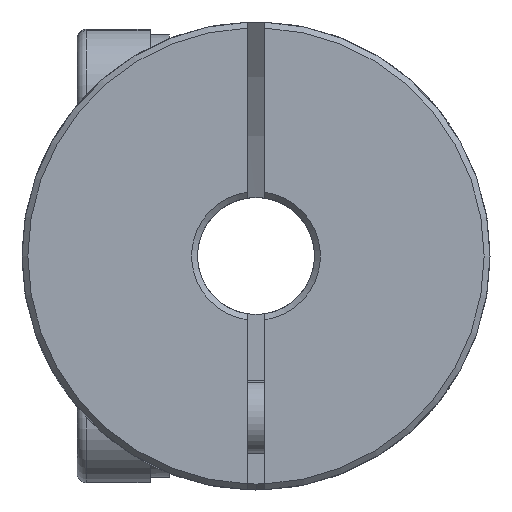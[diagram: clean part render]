
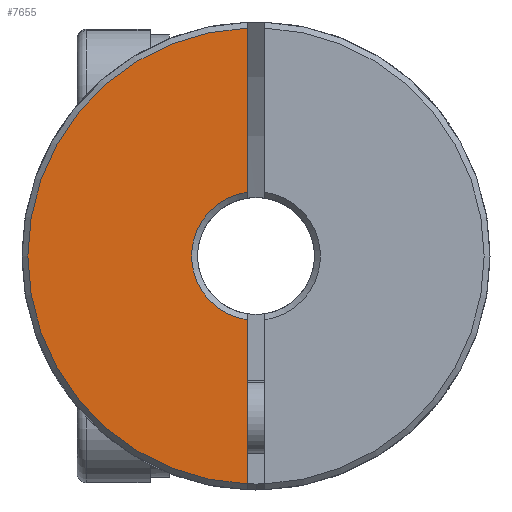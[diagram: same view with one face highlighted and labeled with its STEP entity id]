
A CAD part, front view. The second image highlights one B-rep face of the part: STEP entity #7655.
In plain terms, the highlighted planar face has unit normal (0, -1, 0).
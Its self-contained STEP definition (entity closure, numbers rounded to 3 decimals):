
#163 = EDGE_CURVE ( 'NONE', #5126, #4188, #5838, .T. ) ;
#553 = AXIS2_PLACEMENT_3D ( 'NONE', #1286, #4145, #4802 ) ;
#689 = CARTESIAN_POINT ( 'NONE',  ( -0.3, -15.02, -2.179 ) ) ;
#831 = CARTESIAN_POINT ( 'NONE',  ( -0.3, -15.02, 0. ) ) ;
#843 = CARTESIAN_POINT ( 'NONE',  ( -0.3, -15.02, 0. ) ) ;
#1286 = CARTESIAN_POINT ( 'NONE',  ( 0., -15.02, 0. ) ) ;
#1780 = DIRECTION ( 'NONE',  ( 0., 0., 1. ) ) ;
#2508 = DIRECTION ( 'NONE',  ( 0., 0., -1. ) ) ;
#2522 = AXIS2_PLACEMENT_3D ( 'NONE', #3494, #2897, #1780 ) ;
#2570 = CARTESIAN_POINT ( 'NONE',  ( -0.3, -15.02, -7.794 ) ) ;
#2865 = VERTEX_POINT ( 'NONE', #6134 ) ;
#2897 = DIRECTION ( 'NONE',  ( 0., 1., 0. ) ) ;
#3340 = VERTEX_POINT ( 'NONE', #2570 ) ;
#3494 = CARTESIAN_POINT ( 'NONE',  ( 0., -15.02, 0. ) ) ;
#3838 = AXIS2_PLACEMENT_3D ( 'NONE', #5486, #5467, #4271 ) ;
#3927 = CIRCLE ( 'NONE', #553, 7.8 ) ;
#4073 = EDGE_CURVE ( 'NONE', #2865, #4188, #6359, .T. ) ;
#4145 = DIRECTION ( 'NONE',  ( 0., -1., 0. ) ) ;
#4188 = VERTEX_POINT ( 'NONE', #6290 ) ;
#4271 = DIRECTION ( 'NONE',  ( 0., 0., 1. ) ) ;
#4450 = ORIENTED_EDGE ( 'NONE', *, *, #5903, .T. ) ;
#4573 = VECTOR ( 'NONE', #6173, 1000. ) ;
#4787 = ORIENTED_EDGE ( 'NONE', *, *, #4073, .F. ) ;
#4802 = DIRECTION ( 'NONE',  ( 0., 0., 1. ) ) ;
#5001 = ORIENTED_EDGE ( 'NONE', *, *, #6409, .F. ) ;
#5126 = VERTEX_POINT ( 'NONE', #689 ) ;
#5280 = EDGE_LOOP ( 'NONE', ( #4787, #4450, #5001, #5846 ) ) ;
#5318 = PLANE ( 'NONE',  #2522 ) ;
#5467 = DIRECTION ( 'NONE',  ( 0., 1., 0. ) ) ;
#5486 = CARTESIAN_POINT ( 'NONE',  ( 0., -15.02, 0. ) ) ;
#5838 = CIRCLE ( 'NONE', #3838, 2.2 ) ;
#5846 = ORIENTED_EDGE ( 'NONE', *, *, #163, .T. ) ;
#5903 = EDGE_CURVE ( 'NONE', #2865, #3340, #3927, .T. ) ;
#6134 = CARTESIAN_POINT ( 'NONE',  ( -0.3, -15.02, 7.794 ) ) ;
#6169 = LINE ( 'NONE', #831, #4573 ) ;
#6173 = DIRECTION ( 'NONE',  ( 0., 0., -1. ) ) ;
#6290 = CARTESIAN_POINT ( 'NONE',  ( -0.3, -15.02, 2.179 ) ) ;
#6359 = LINE ( 'NONE', #843, #6817 ) ;
#6409 = EDGE_CURVE ( 'NONE', #5126, #3340, #6169, .T. ) ;
#6442 = FACE_OUTER_BOUND ( 'NONE', #5280, .T. ) ;
#6817 = VECTOR ( 'NONE', #2508, 1000. ) ;
#7655 = ADVANCED_FACE ( 'NONE', ( #6442 ), #5318, .F. ) ;
